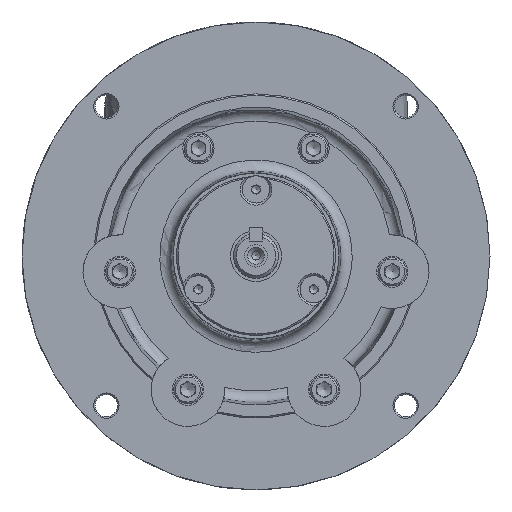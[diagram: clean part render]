
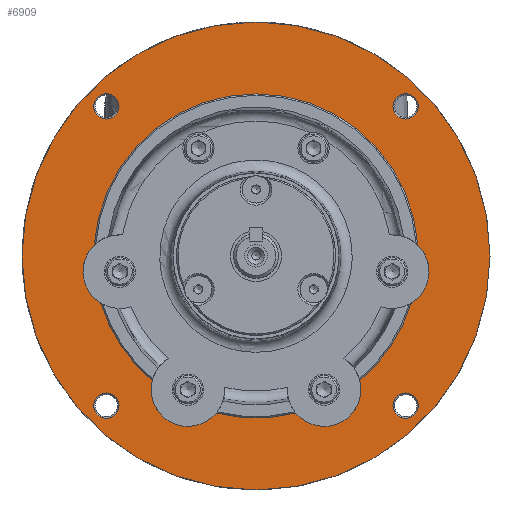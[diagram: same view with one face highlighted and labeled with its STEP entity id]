
A CAD part, top view. The second image highlights one B-rep face of the part: STEP entity #6909.
In plain terms, the highlighted planar face has unit normal (0, 0, 1).
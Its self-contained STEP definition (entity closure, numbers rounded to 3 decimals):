
#558 = AXIS2_PLACEMENT_3D ( 'NONE', #18466, #1054, #25550 ) ;
#617 = FACE_BOUND ( 'NONE', #23397, .T. ) ;
#912 = VERTEX_POINT ( 'NONE', #4548 ) ;
#948 = CARTESIAN_POINT ( 'NONE',  ( 0., 5.501, 65.3 ) ) ;
#966 = DIRECTION ( 'NONE',  ( 0., 0., -1. ) ) ;
#1054 = DIRECTION ( 'NONE',  ( 0., 0., 1. ) ) ;
#1947 = AXIS2_PLACEMENT_3D ( 'NONE', #3933, #4378, #25459 ) ;
#1986 = VERTEX_POINT ( 'NONE', #21473 ) ;
#2066 = EDGE_CURVE ( 'NONE', #11579, #12899, #9004, .T. ) ;
#2297 = CIRCLE ( 'NONE', #8130, 4.469 ) ;
#2714 = CARTESIAN_POINT ( 'NONE',  ( 52.761, -47.26, 65.3 ) ) ;
#3072 = VERTEX_POINT ( 'NONE', #4666 ) ;
#3609 = ORIENTED_EDGE ( 'NONE', *, *, #16673, .T. ) ;
#3933 = CARTESIAN_POINT ( 'NONE',  ( 48., 0.001, 65.3 ) ) ;
#4204 = ORIENTED_EDGE ( 'NONE', *, *, #34738, .T. ) ;
#4368 = CARTESIAN_POINT ( 'NONE',  ( 0., 5.501, 65.3 ) ) ;
#4378 = DIRECTION ( 'NONE',  ( 0., 0., -1. ) ) ;
#4459 = FACE_OUTER_BOUND ( 'NONE', #17713, .T. ) ;
#4548 = CARTESIAN_POINT ( 'NONE',  ( 57.23, 58.262, 65.3 ) ) ;
#4666 = CARTESIAN_POINT ( 'NONE',  ( -54.668, -11.159, 65.3 ) ) ;
#4923 = ORIENTED_EDGE ( 'NONE', *, *, #23548, .T. ) ;
#5250 = CIRCLE ( 'NONE', #11112, 4.469 ) ;
#5464 = CARTESIAN_POINT ( 'NONE',  ( -48.292, -47.26, 65.3 ) ) ;
#6527 = EDGE_CURVE ( 'NONE', #12841, #1986, #30462, .T. ) ;
#6909 = ADVANCED_FACE ( 'NONE', ( #4459, #24847, #617, #7679, #18234, #11592 ), #42496, .T. ) ;
#7024 = CARTESIAN_POINT ( 'NONE',  ( 0., 5.501, 65.3 ) ) ;
#7263 = DIRECTION ( 'NONE',  ( 0., 0., -1. ) ) ;
#7310 = CARTESIAN_POINT ( 'NONE',  ( -14.023, -49.902, 65.3 ) ) ;
#7534 = VERTEX_POINT ( 'NONE', #39348 ) ;
#7679 = FACE_BOUND ( 'NONE', #39193, .T. ) ;
#8130 = AXIS2_PLACEMENT_3D ( 'NONE', #17600, #7263, #14599 ) ;
#8176 = VERTEX_POINT ( 'NONE', #7310 ) ;
#8517 = CARTESIAN_POINT ( 'NONE',  ( -57.019, 9.363, 65.3 ) ) ;
#8928 = CARTESIAN_POINT ( 'NONE',  ( 82.5, 5.501, 65.3 ) ) ;
#9004 = CIRCLE ( 'NONE', #19983, 13. ) ;
#9371 = DIRECTION ( 'NONE',  ( 0., 0., -1. ) ) ;
#9699 = AXIS2_PLACEMENT_3D ( 'NONE', #4368, #43096, #12420 ) ;
#9782 = ORIENTED_EDGE ( 'NONE', *, *, #34490, .T. ) ;
#10119 = CIRCLE ( 'NONE', #12303, 57.15 ) ;
#10369 = CARTESIAN_POINT ( 'NONE',  ( -48.292, 58.262, 65.3 ) ) ;
#10644 = CARTESIAN_POINT ( 'NONE',  ( -36.605, -38.387, 65.3 ) ) ;
#11112 = AXIS2_PLACEMENT_3D ( 'NONE', #2714, #9371, #19663 ) ;
#11132 = ORIENTED_EDGE ( 'NONE', *, *, #24436, .T. ) ;
#11579 = VERTEX_POINT ( 'NONE', #25497 ) ;
#11592 = FACE_BOUND ( 'NONE', #26740, .T. ) ;
#11597 = DIRECTION ( 'NONE',  ( 0., 0., -1. ) ) ;
#11732 = CARTESIAN_POINT ( 'NONE',  ( -48., 0.001, 65.3 ) ) ;
#11860 = DIRECTION ( 'NONE',  ( 0., 0., -1. ) ) ;
#12063 = CARTESIAN_POINT ( 'NONE',  ( 14.023, -49.902, 65.3 ) ) ;
#12094 = ORIENTED_EDGE ( 'NONE', *, *, #14040, .T. ) ;
#12303 = AXIS2_PLACEMENT_3D ( 'NONE', #32154, #11597, #18238 ) ;
#12420 = DIRECTION ( 'NONE',  ( 1., 0., 0. ) ) ;
#12841 = VERTEX_POINT ( 'NONE', #36263 ) ;
#12899 = VERTEX_POINT ( 'NONE', #12063 ) ;
#13132 = ORIENTED_EDGE ( 'NONE', *, *, #26635, .T. ) ;
#14040 = EDGE_CURVE ( 'NONE', #1986, #11579, #17719, .T. ) ;
#14599 = DIRECTION ( 'NONE',  ( 1., 0., 0. ) ) ;
#15296 = DIRECTION ( 'NONE',  ( 1., 0., 0. ) ) ;
#15786 = DIRECTION ( 'NONE',  ( 0., 0., -1. ) ) ;
#16545 = CIRCLE ( 'NONE', #36943, 4.469 ) ;
#16673 = EDGE_CURVE ( 'NONE', #38715, #38715, #16545, .T. ) ;
#16713 = CIRCLE ( 'NONE', #26194, 82.5 ) ;
#17600 = CARTESIAN_POINT ( 'NONE',  ( 52.761, 58.262, 65.3 ) ) ;
#17713 = EDGE_LOOP ( 'NONE', ( #9782 ) ) ;
#17719 = CIRCLE ( 'NONE', #9699, 57.15 ) ;
#17919 = DIRECTION ( 'NONE',  ( 1., 0., 0. ) ) ;
#18148 = VERTEX_POINT ( 'NONE', #8517 ) ;
#18205 = EDGE_CURVE ( 'NONE', #3072, #18148, #19621, .T. ) ;
#18234 = FACE_BOUND ( 'NONE', #21209, .T. ) ;
#18238 = DIRECTION ( 'NONE',  ( 1., 0., 0. ) ) ;
#18324 = AXIS2_PLACEMENT_3D ( 'NONE', #35633, #22190, #32213 ) ;
#18466 = CARTESIAN_POINT ( 'NONE',  ( 0., 5.501, 65.3 ) ) ;
#19621 = CIRCLE ( 'NONE', #43747, 13. ) ;
#19639 = ORIENTED_EDGE ( 'NONE', *, *, #6527, .T. ) ;
#19663 = DIRECTION ( 'NONE',  ( 1., 0., 0. ) ) ;
#19913 = VERTEX_POINT ( 'NONE', #10644 ) ;
#19983 = AXIS2_PLACEMENT_3D ( 'NONE', #33288, #11860, #15296 ) ;
#20212 = ORIENTED_EDGE ( 'NONE', *, *, #37892, .T. ) ;
#21209 = EDGE_LOOP ( 'NONE', ( #11132 ) ) ;
#21473 = CARTESIAN_POINT ( 'NONE',  ( 54.668, -11.159, 65.3 ) ) ;
#21771 = AXIS2_PLACEMENT_3D ( 'NONE', #948, #35687, #29100 ) ;
#22042 = CARTESIAN_POINT ( 'NONE',  ( -52.761, 58.262, 65.3 ) ) ;
#22190 = DIRECTION ( 'NONE',  ( 0., 0., -1. ) ) ;
#22209 = VERTEX_POINT ( 'NONE', #5464 ) ;
#22421 = EDGE_CURVE ( 'NONE', #18148, #12841, #22787, .T. ) ;
#22483 = DIRECTION ( 'NONE',  ( 1., 0., 0. ) ) ;
#22787 = CIRCLE ( 'NONE', #28629, 57.15 ) ;
#23397 = EDGE_LOOP ( 'NONE', ( #3609 ) ) ;
#23548 = EDGE_CURVE ( 'NONE', #912, #912, #2297, .T. ) ;
#23660 = AXIS2_PLACEMENT_3D ( 'NONE', #35868, #15786, #43700 ) ;
#24156 = CIRCLE ( 'NONE', #18324, 13. ) ;
#24436 = EDGE_CURVE ( 'NONE', #7534, #7534, #5250, .T. ) ;
#24718 = DIRECTION ( 'NONE',  ( 0., 0., -1. ) ) ;
#24847 = FACE_BOUND ( 'NONE', #29089, .T. ) ;
#25078 = DIRECTION ( 'NONE',  ( 0., 0., 1. ) ) ;
#25459 = DIRECTION ( 'NONE',  ( 1., 0., 0. ) ) ;
#25497 = CARTESIAN_POINT ( 'NONE',  ( 36.605, -38.387, 65.3 ) ) ;
#25550 = DIRECTION ( 'NONE',  ( 1., 0., 0. ) ) ;
#25713 = ORIENTED_EDGE ( 'NONE', *, *, #2066, .T. ) ;
#26194 = AXIS2_PLACEMENT_3D ( 'NONE', #7024, #25078, #42054 ) ;
#26635 = EDGE_CURVE ( 'NONE', #8176, #19913, #24156, .T. ) ;
#26740 = EDGE_LOOP ( 'NONE', ( #4204, #13132, #41194, #30041, #35571, #19639, #12094, #25713 ) ) ;
#28629 = AXIS2_PLACEMENT_3D ( 'NONE', #42144, #24718, #34557 ) ;
#29089 = EDGE_LOOP ( 'NONE', ( #4923 ) ) ;
#29100 = DIRECTION ( 'NONE',  ( 1., 0., 0. ) ) ;
#30041 = ORIENTED_EDGE ( 'NONE', *, *, #18205, .T. ) ;
#30462 = CIRCLE ( 'NONE', #1947, 13. ) ;
#32154 = CARTESIAN_POINT ( 'NONE',  ( 0., 5.501, 65.3 ) ) ;
#32213 = DIRECTION ( 'NONE',  ( 1., 0., 0. ) ) ;
#33288 = CARTESIAN_POINT ( 'NONE',  ( 24., -41.568, 65.3 ) ) ;
#34228 = EDGE_CURVE ( 'NONE', #19913, #3072, #41504, .T. ) ;
#34490 = EDGE_CURVE ( 'NONE', #40267, #40267, #16713, .T. ) ;
#34557 = DIRECTION ( 'NONE',  ( 1., 0., 0. ) ) ;
#34738 = EDGE_CURVE ( 'NONE', #12899, #8176, #10119, .T. ) ;
#35571 = ORIENTED_EDGE ( 'NONE', *, *, #22421, .T. ) ;
#35633 = CARTESIAN_POINT ( 'NONE',  ( -24., -41.568, 65.3 ) ) ;
#35687 = DIRECTION ( 'NONE',  ( 0., 0., -1. ) ) ;
#35868 = CARTESIAN_POINT ( 'NONE',  ( -52.761, -47.26, 65.3 ) ) ;
#36263 = CARTESIAN_POINT ( 'NONE',  ( 57.019, 9.363, 65.3 ) ) ;
#36397 = DIRECTION ( 'NONE',  ( 0., 0., -1. ) ) ;
#36943 = AXIS2_PLACEMENT_3D ( 'NONE', #22042, #966, #17919 ) ;
#37892 = EDGE_CURVE ( 'NONE', #22209, #22209, #43393, .T. ) ;
#38715 = VERTEX_POINT ( 'NONE', #10369 ) ;
#39193 = EDGE_LOOP ( 'NONE', ( #20212 ) ) ;
#39348 = CARTESIAN_POINT ( 'NONE',  ( 57.23, -47.26, 65.3 ) ) ;
#40267 = VERTEX_POINT ( 'NONE', #8928 ) ;
#41194 = ORIENTED_EDGE ( 'NONE', *, *, #34228, .T. ) ;
#41504 = CIRCLE ( 'NONE', #21771, 57.15 ) ;
#42054 = DIRECTION ( 'NONE',  ( 1., 0., 0. ) ) ;
#42144 = CARTESIAN_POINT ( 'NONE',  ( 0., 5.501, 65.3 ) ) ;
#42496 = PLANE ( 'NONE',  #558 ) ;
#43096 = DIRECTION ( 'NONE',  ( 0., 0., -1. ) ) ;
#43393 = CIRCLE ( 'NONE', #23660, 4.469 ) ;
#43700 = DIRECTION ( 'NONE',  ( 1., 0., 0. ) ) ;
#43747 = AXIS2_PLACEMENT_3D ( 'NONE', #11732, #36397, #22483 ) ;
